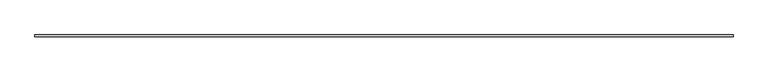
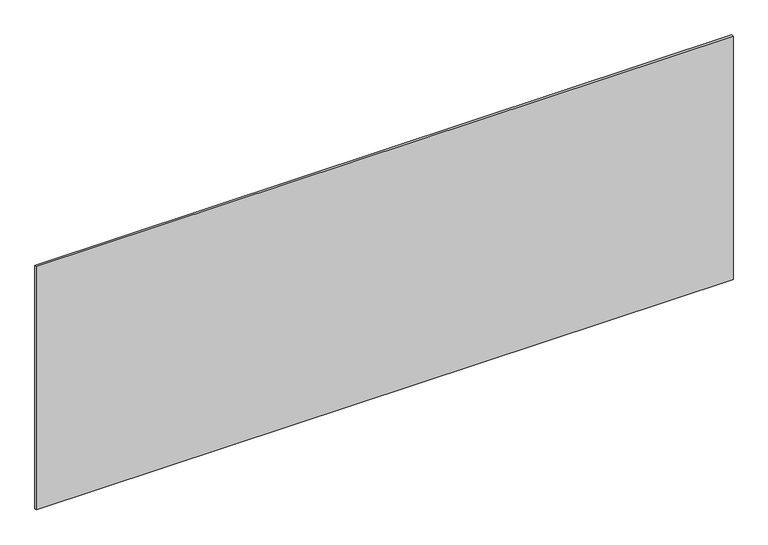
"""IFC4 building model written with IfcOpenShell, lengths in millimetres: plate geometry, システム パネル : 標準."""

from ifc_helpers import new_model, si_unit, origin, origin_with_axes, place, context, project, spatial, polyline, outline, extrude, source, transform, mapped, element, save


def plate_67858f40(model_context):
    return source(origin(), model_context, "Body", "SweptSolid", [
        extrude(outline(polyline([(1715.0, -5.0), (-1715.0, -5.0), (-1715.0, 5.0), (1715.0, 5.0), (1715.0, -5.0)])), origin_with_axes(), (0.0, 0.0, 1.0), 1266.9562992),
    ])


if __name__ == "__main__":
    model = new_model("IFC4")
    model_context = context("Model", 3, world=origin())
    ifc_project = project(units=[si_unit("LENGTHUNIT", "METRE", prefix="MILLI")], contexts=[model_context])
    site = spatial("IfcSite", under=ifc_project)
    building = spatial("IfcBuilding", under=site)
    placement = place(None, origin())
    plate_shape = plate_67858f40(model_context)
    element("IfcPlate", 1, ObjectType="システム パネル : 標準", at=placement, inside=building, context=model_context, shape_type="MappedRepresentation", body=[
        mapped(plate_shape, transform((0.0, 0.0, 0.0), x_axis=(1.0, 0.0, 0.0), y_axis=(0.0, 1.0, 0.0), z_axis=(0.0, 0.0, 1.0))),
    ])
    save(model, "model.ifc")
